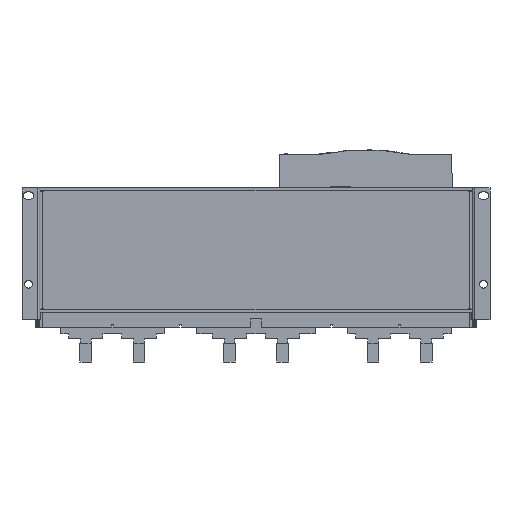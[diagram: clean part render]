
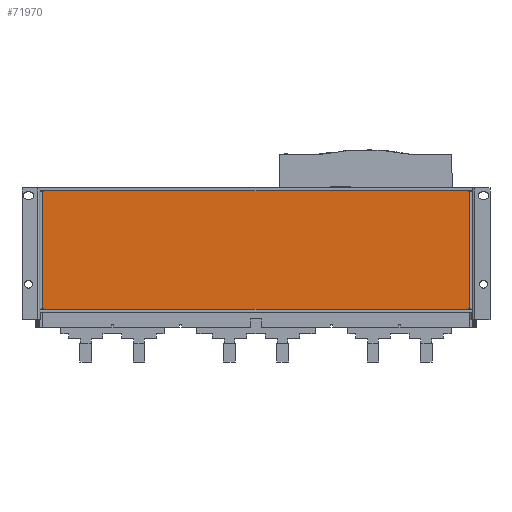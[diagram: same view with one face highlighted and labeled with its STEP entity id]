
A CAD part, front view. The second image highlights one B-rep face of the part: STEP entity #71970.
In plain terms, the highlighted planar face has unit normal (0, -1, 0).
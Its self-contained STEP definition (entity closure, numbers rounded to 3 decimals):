
#803 = CARTESIAN_POINT ( 'NONE',  ( 257.615, 465.825, 806.621 ) ) ;
#5869 = ORIENTED_EDGE ( 'NONE', *, *, #50636, .T. ) ;
#6308 = EDGE_CURVE ( 'NONE', #58289, #193792, #157829, .T. ) ;
#10100 = ORIENTED_EDGE ( 'NONE', *, *, #43911, .F. ) ;
#11925 = ORIENTED_EDGE ( 'NONE', *, *, #131102, .F. ) ;
#17457 = CARTESIAN_POINT ( 'NONE',  ( -102.385, 465.825, 807.621 ) ) ;
#19258 = DIRECTION ( 'NONE',  ( 1., 0., 0. ) ) ;
#23112 = DIRECTION ( 'NONE',  ( -1., 0., 0. ) ) ;
#33049 = EDGE_CURVE ( 'NONE', #178037, #218478, #49246, .T. ) ;
#36061 = CARTESIAN_POINT ( 'NONE',  ( 617.615, 465.825, 801.621 ) ) ;
#40647 = VECTOR ( 'NONE', #23112, 1000. ) ;
#40664 = EDGE_CURVE ( 'NONE', #92140, #60237, #200635, .T. ) ;
#41546 = DIRECTION ( 'NONE',  ( 0., 0., -1. ) ) ;
#42650 = EDGE_CURVE ( 'NONE', #164571, #109990, #184773, .T. ) ;
#43911 = EDGE_CURVE ( 'NONE', #151929, #109990, #180365, .T. ) ;
#46231 = LINE ( 'NONE', #52260, #134021 ) ;
#47651 = EDGE_CURVE ( 'NONE', #162250, #60237, #65348, .T. ) ;
#49246 = LINE ( 'NONE', #78797, #40647 ) ;
#49790 = DIRECTION ( 'NONE',  ( 1., 0., 0. ) ) ;
#50636 = EDGE_CURVE ( 'NONE', #92140, #164571, #130595, .T. ) ;
#52260 = CARTESIAN_POINT ( 'NONE',  ( -103.385, 465.825, 1011.621 ) ) ;
#55366 = EDGE_CURVE ( 'NONE', #232098, #162250, #175139, .T. ) ;
#56856 = CARTESIAN_POINT ( 'NONE',  ( -108.385, 465.825, 807.621 ) ) ;
#58004 = DIRECTION ( 'NONE',  ( -1., 0., 0. ) ) ;
#58289 = VERTEX_POINT ( 'NONE', #232536 ) ;
#60237 = VERTEX_POINT ( 'NONE', #229703 ) ;
#62313 = VECTOR ( 'NONE', #105383, 1000. ) ;
#65348 = LINE ( 'NONE', #184468, #71216 ) ;
#67670 = CARTESIAN_POINT ( 'NONE',  ( -102.385, 465.825, 1011.621 ) ) ;
#70001 = CARTESIAN_POINT ( 'NONE',  ( 257.615, 465.825, 1011.621 ) ) ;
#71216 = VECTOR ( 'NONE', #72696, 1000. ) ;
#71970 = ADVANCED_FACE ( 'NONE', ( #129025 ), #72449, .F. ) ;
#72449 = PLANE ( 'NONE',  #121971 ) ;
#72696 = DIRECTION ( 'NONE',  ( 1., 0., 0. ) ) ;
#78797 = CARTESIAN_POINT ( 'NONE',  ( -108.385, 465.825, 1005.621 ) ) ;
#80779 = ORIENTED_EDGE ( 'NONE', *, *, #42650, .T. ) ;
#81724 = VECTOR ( 'NONE', #112976, 1000. ) ;
#84591 = EDGE_CURVE ( 'NONE', #232098, #116003, #233666, .T. ) ;
#88475 = ORIENTED_EDGE ( 'NONE', *, *, #55366, .T. ) ;
#88734 = CARTESIAN_POINT ( 'NONE',  ( 618.615, 465.825, 1005.621 ) ) ;
#89223 = ORIENTED_EDGE ( 'NONE', *, *, #6308, .T. ) ;
#90332 = CARTESIAN_POINT ( 'NONE',  ( -102.385, 465.825, 806.621 ) ) ;
#90797 = LINE ( 'NONE', #98042, #154974 ) ;
#92140 = VERTEX_POINT ( 'NONE', #88734 ) ;
#96752 = ORIENTED_EDGE ( 'NONE', *, *, #40664, .F. ) ;
#98042 = CARTESIAN_POINT ( 'NONE',  ( -102.385, 465.825, 801.621 ) ) ;
#98889 = CARTESIAN_POINT ( 'NONE',  ( 617.615, 465.825, 1011.621 ) ) ;
#101077 = CARTESIAN_POINT ( 'NONE',  ( -102.385, 465.825, 1005.621 ) ) ;
#105383 = DIRECTION ( 'NONE',  ( 0., 0., -1. ) ) ;
#105821 = CARTESIAN_POINT ( 'NONE',  ( 617.615, 465.825, 1005.621 ) ) ;
#109990 = VERTEX_POINT ( 'NONE', #168126 ) ;
#112976 = DIRECTION ( 'NONE',  ( 0., 0., 1. ) ) ;
#113048 = VECTOR ( 'NONE', #171126, 1000. ) ;
#114670 = CARTESIAN_POINT ( 'NONE',  ( 617.615, 465.825, 806.621 ) ) ;
#116003 = VERTEX_POINT ( 'NONE', #90332 ) ;
#119496 = EDGE_LOOP ( 'NONE', ( #10100, #241821, #240119, #11925, #89223, #120536, #162084, #88475, #201675, #96752, #5869, #80779 ) ) ;
#120536 = ORIENTED_EDGE ( 'NONE', *, *, #165498, .T. ) ;
#121971 = AXIS2_PLACEMENT_3D ( 'NONE', #70001, #127271, #201380 ) ;
#127271 = DIRECTION ( 'NONE',  ( 0., 1., 0. ) ) ;
#129025 = FACE_OUTER_BOUND ( 'NONE', #119496, .T. ) ;
#130595 = LINE ( 'NONE', #152394, #113048 ) ;
#131102 = EDGE_CURVE ( 'NONE', #58289, #218478, #46231, .T. ) ;
#133810 = CARTESIAN_POINT ( 'NONE',  ( -103.385, 465.825, 1005.621 ) ) ;
#134021 = VECTOR ( 'NONE', #200894, 1000. ) ;
#136680 = CARTESIAN_POINT ( 'NONE',  ( 618.615, 465.825, 1011.621 ) ) ;
#138067 = DIRECTION ( 'NONE',  ( 0., 0., 1. ) ) ;
#145822 = CARTESIAN_POINT ( 'NONE',  ( 617.615, 465.825, 807.621 ) ) ;
#151192 = VECTOR ( 'NONE', #49790, 1000. ) ;
#151929 = VERTEX_POINT ( 'NONE', #228537 ) ;
#152394 = CARTESIAN_POINT ( 'NONE',  ( 623.615, 465.825, 1005.621 ) ) ;
#154974 = VECTOR ( 'NONE', #41546, 1000. ) ;
#157829 = LINE ( 'NONE', #56856, #163692 ) ;
#162084 = ORIENTED_EDGE ( 'NONE', *, *, #84591, .F. ) ;
#162250 = VERTEX_POINT ( 'NONE', #145822 ) ;
#163692 = VECTOR ( 'NONE', #19258, 1000. ) ;
#164571 = VERTEX_POINT ( 'NONE', #105821 ) ;
#165498 = EDGE_CURVE ( 'NONE', #193792, #116003, #90797, .T. ) ;
#168126 = CARTESIAN_POINT ( 'NONE',  ( 617.615, 465.825, 1006.621 ) ) ;
#171126 = DIRECTION ( 'NONE',  ( -1., 0., 0. ) ) ;
#175139 = LINE ( 'NONE', #36061, #81724 ) ;
#178037 = VERTEX_POINT ( 'NONE', #101077 ) ;
#180365 = LINE ( 'NONE', #220357, #151192 ) ;
#184468 = CARTESIAN_POINT ( 'NONE',  ( 623.615, 465.825, 807.621 ) ) ;
#184773 = LINE ( 'NONE', #98889, #234357 ) ;
#191195 = DIRECTION ( 'NONE',  ( 0., 0., -1. ) ) ;
#193792 = VERTEX_POINT ( 'NONE', #17457 ) ;
#200635 = LINE ( 'NONE', #136680, #235934 ) ;
#200894 = DIRECTION ( 'NONE',  ( 0., 0., 1. ) ) ;
#201380 = DIRECTION ( 'NONE',  ( 1., 0., 0. ) ) ;
#201675 = ORIENTED_EDGE ( 'NONE', *, *, #47651, .T. ) ;
#212763 = EDGE_CURVE ( 'NONE', #151929, #178037, #228858, .T. ) ;
#218478 = VERTEX_POINT ( 'NONE', #133810 ) ;
#220357 = CARTESIAN_POINT ( 'NONE',  ( 257.615, 465.825, 1006.621 ) ) ;
#221993 = VECTOR ( 'NONE', #58004, 1000. ) ;
#228537 = CARTESIAN_POINT ( 'NONE',  ( -102.385, 465.825, 1006.621 ) ) ;
#228858 = LINE ( 'NONE', #67670, #62313 ) ;
#229703 = CARTESIAN_POINT ( 'NONE',  ( 618.615, 465.825, 807.621 ) ) ;
#232098 = VERTEX_POINT ( 'NONE', #114670 ) ;
#232536 = CARTESIAN_POINT ( 'NONE',  ( -103.385, 465.825, 807.621 ) ) ;
#233666 = LINE ( 'NONE', #803, #221993 ) ;
#234357 = VECTOR ( 'NONE', #138067, 1000. ) ;
#235934 = VECTOR ( 'NONE', #191195, 1000. ) ;
#240119 = ORIENTED_EDGE ( 'NONE', *, *, #33049, .T. ) ;
#241821 = ORIENTED_EDGE ( 'NONE', *, *, #212763, .T. ) ;
